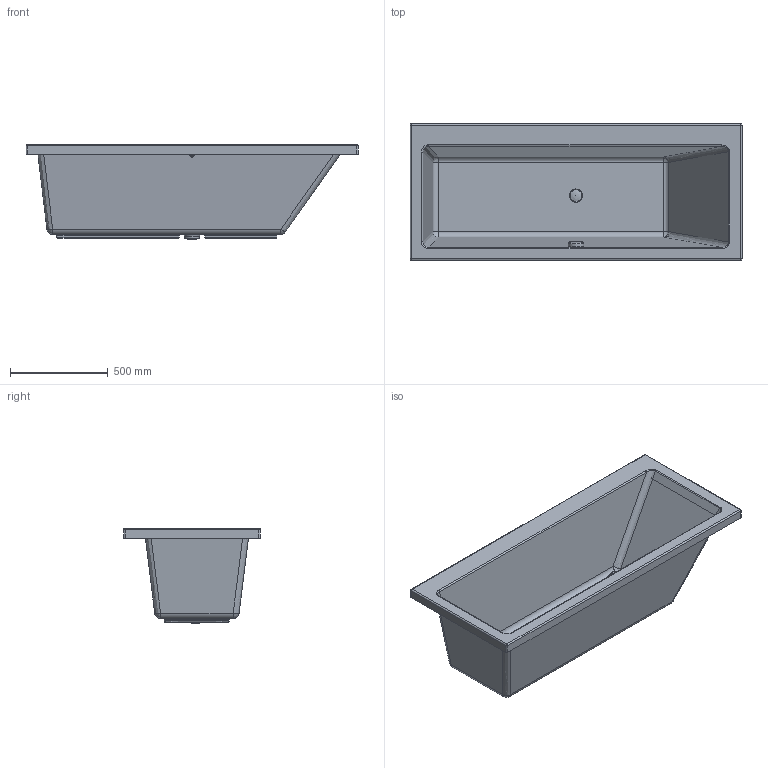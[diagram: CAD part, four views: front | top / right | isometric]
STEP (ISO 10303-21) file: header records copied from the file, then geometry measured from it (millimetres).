
FILE_DESCRIPTION((''),'2;1');
FILE_NAME('C:\Dokumente und Einstellungen\Huebner\Eigene Dateien\PRIVAT2\Vero\3D\STEP_VERO\700132.stp','2007-10-06T06:57:08',('Huebner'),(''),'Autodesk Inventor 11','Autodesk Inventor 11','');
FILE_SCHEMA(('AUTOMOTIVE_DESIGN { 1 0 10303 214 1 1 1 1 }'));
Length unit declared in the file: millimetre
Products named in the file (5): 700132; Kelch; Stopfen; Verschluss_Ueberlauf
Assembly tree (4 placements, depth 2):
  700132
    700132
    Kelch
    Stopfen
    Verschluss_Ueberlauf
Bounding box: 1700 x 700 x 486.7 mm (x, y, z)
Volume: 41655169.5 mm3; surface area: 5387793.5 mm2
Topology: 4 solids, 4 shells, 182 faces, 414 edges, 232 vertices
Faces by surface type: bspline 145, plane 15, cylinder 14, torus 6, cone 2
Full cylindrical faces by diameter (mm): 15 x1, 42 x1, 44 x1, 60 x1, 74 x1, 79.999 x1
Entity records: 10576 total; most frequent: CARTESIAN_POINT 7033, ORIENTED_EDGE 744, DIRECTION 620, EDGE_CURVE 372, VERTEX_POINT 226, AXIS2_PLACEMENT_3D 223, EDGE_LOOP 216, FACE_OUTER_BOUND 182
